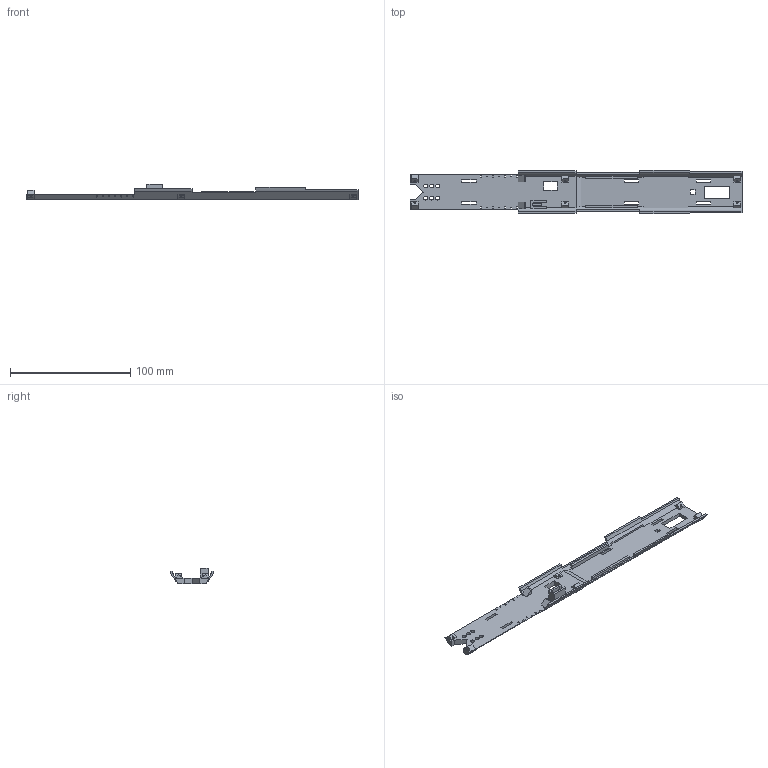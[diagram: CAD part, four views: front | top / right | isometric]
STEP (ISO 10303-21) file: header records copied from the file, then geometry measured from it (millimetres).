
FILE_DESCRIPTION(('SkyG Speed 90B - revision C6B-16 - 2026-10-13','TR-equipment-tray'),'2;1');
FILE_NAME('TR-equipment-tray_C6B-16','2026-10-13T19:26:17',('Author'),( 'Open CASCADE'),'Open CASCADE STEP processor 7.9','Open CASCADE 7.9' ,'Unknown');
FILE_SCHEMA(('AUTOMOTIVE_DESIGN { 1 0 10303 214 1 1 1 1 }'));
Length unit declared in the file: millimetre
Products named in the file (1): TR-equipment-tray C6B-16
Bounding box: 276 x 36.14 x 12.7 mm (x, y, z)
Volume: 28614.5 mm3; surface area: 23016.6 mm2
Topology: 1 solids, 1 shells, 265 faces, 804 edges, 537 vertices
Faces by surface type: plane 225, cylinder 40
Full cylindrical faces by diameter (mm): 3.3 x6
Entity records: 19572 total; most frequent: CARTESIAN_POINT 4838, DIRECTION 2302, ORIENTED_EDGE 1608, PCURVE 1608, DEFINITIONAL_REPRESENTATION 1608, LINE 1509, VECTOR 1509, EDGE_CURVE 804
